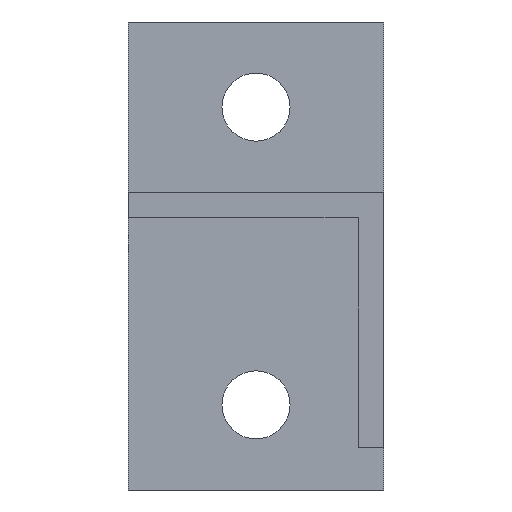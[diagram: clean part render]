
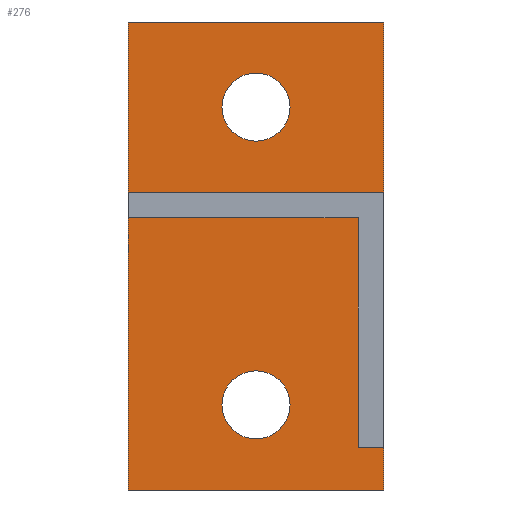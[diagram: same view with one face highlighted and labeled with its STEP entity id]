
A CAD part, front view. The second image highlights one B-rep face of the part: STEP entity #276.
In plain terms, the highlighted planar face has unit normal (0, -1, 0).
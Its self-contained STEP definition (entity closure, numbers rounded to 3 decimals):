
#19=FACE_BOUND('',#57,.T.);
#20=FACE_BOUND('',#58,.T.);
#22=PLANE('',#311);
#38=FACE_OUTER_BOUND('',#56,.T.);
#56=EDGE_LOOP('',(#213,#214,#215,#216));
#57=EDGE_LOOP('',(#217));
#58=EDGE_LOOP('',(#218));
#77=LINE('',#423,#109);
#78=LINE('',#425,#110);
#79=LINE('',#427,#111);
#80=LINE('',#428,#112);
#109=VECTOR('',#348,10.);
#110=VECTOR('',#349,10.);
#111=VECTOR('',#350,10.);
#112=VECTOR('',#351,10.);
#135=CIRCLE('',#305,4.);
#137=CIRCLE('',#308,4.);
#139=VERTEX_POINT('',#400);
#141=VERTEX_POINT('',#406);
#147=VERTEX_POINT('',#421);
#148=VERTEX_POINT('',#422);
#149=VERTEX_POINT('',#424);
#150=VERTEX_POINT('',#426);
#163=EDGE_CURVE('',#139,#139,#135,.T.);
#166=EDGE_CURVE('',#141,#141,#137,.T.);
#173=EDGE_CURVE('',#147,#148,#77,.T.);
#174=EDGE_CURVE('',#148,#149,#78,.T.);
#175=EDGE_CURVE('',#149,#150,#79,.T.);
#176=EDGE_CURVE('',#150,#147,#80,.T.);
#213=ORIENTED_EDGE('',*,*,#173,.T.);
#214=ORIENTED_EDGE('',*,*,#174,.T.);
#215=ORIENTED_EDGE('',*,*,#175,.T.);
#216=ORIENTED_EDGE('',*,*,#176,.T.);
#217=ORIENTED_EDGE('',*,*,#163,.T.);
#218=ORIENTED_EDGE('',*,*,#166,.T.);
#276=ADVANCED_FACE('',(#38,#19,#20),#22,.F.);
#305=AXIS2_PLACEMENT_3D('',#401,#328,#329);
#308=AXIS2_PLACEMENT_3D('',#407,#335,#336);
#311=AXIS2_PLACEMENT_3D('',#420,#346,#347);
#328=DIRECTION('center_axis',(0.,1.,0.));
#329=DIRECTION('ref_axis',(1.,0.,0.));
#335=DIRECTION('center_axis',(0.,1.,0.));
#336=DIRECTION('ref_axis',(1.,0.,0.));
#346=DIRECTION('center_axis',(0.,1.,0.));
#347=DIRECTION('ref_axis',(0.,0.,-1.));
#348=DIRECTION('',(1.,0.,0.));
#349=DIRECTION('',(0.,0.,1.));
#350=DIRECTION('',(-1.,0.,0.));
#351=DIRECTION('',(0.,0.,-1.));
#400=CARTESIAN_POINT('',(11.,0.,-10.));
#401=CARTESIAN_POINT('Origin',(15.,0.,-10.));
#406=CARTESIAN_POINT('',(11.,0.,-45.));
#407=CARTESIAN_POINT('Origin',(15.,0.,-45.));
#420=CARTESIAN_POINT('Origin',(15.,0.,-27.5));
#421=CARTESIAN_POINT('',(0.,0.,-55.));
#422=CARTESIAN_POINT('',(30.,0.,-55.));
#423=CARTESIAN_POINT('',(15.,0.,-55.));
#424=CARTESIAN_POINT('',(30.,0.,0.));
#425=CARTESIAN_POINT('',(30.,0.,-27.5));
#426=CARTESIAN_POINT('',(0.,0.,0.));
#427=CARTESIAN_POINT('',(15.,0.,0.));
#428=CARTESIAN_POINT('',(0.,0.,-27.5));
